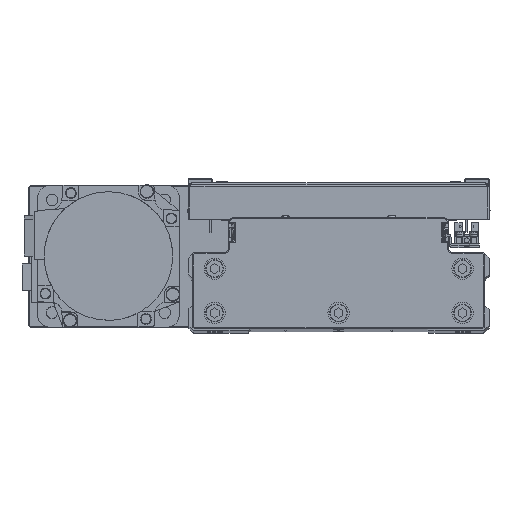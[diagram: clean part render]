
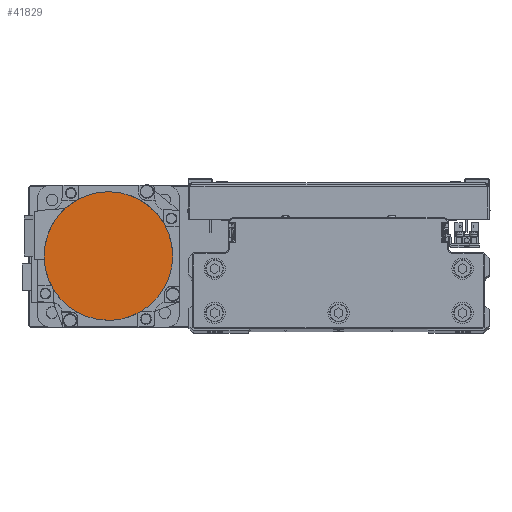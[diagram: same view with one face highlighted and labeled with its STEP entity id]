
A CAD part, top view. The second image highlights one B-rep face of the part: STEP entity #41829.
In plain terms, the highlighted planar face has unit normal (0, 0, 1) as drawn and (0, 0, -1) by its records, which use the part's own axes.
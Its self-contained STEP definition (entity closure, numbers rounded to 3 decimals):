
#99 = CARTESIAN_POINT ( 'NONE',  ( -28.862, -22.143, -122.2 ) ) ;
#969 = ORIENTED_EDGE ( 'NONE', *, *, #31364, .F. ) ;
#1072 = AXIS2_PLACEMENT_3D ( 'NONE', #32959, #2104, #15814 ) ;
#2104 = DIRECTION ( 'NONE',  ( 0., 0., 1. ) ) ;
#3100 = CARTESIAN_POINT ( 'NONE',  ( -16.086, 32.628, -122.2 ) ) ;
#3466 = CARTESIAN_POINT ( 'NONE',  ( -34.446, -11.696, -122.2 ) ) ;
#3679 = CARTESIAN_POINT ( 'NONE',  ( 0., -36.3, -122.2 ) ) ;
#3837 = VERTEX_POINT ( 'NONE', #13676 ) ;
#3941 = CARTESIAN_POINT ( 'NONE',  ( 0., 0., -122.2 ) ) ;
#4525 = AXIS2_PLACEMENT_3D ( 'NONE', #3941, #17665, #31440 ) ;
#5683 = VERTEX_POINT ( 'NONE', #7752 ) ;
#6460 = CARTESIAN_POINT ( 'NONE',  ( -4.752, 36.066, -122.2 ) ) ;
#6681 = CARTESIAN_POINT ( 'NONE',  ( -36.066, 4.752, -122.2 ) ) ;
#6805 = EDGE_LOOP ( 'NONE', ( #32971, #25907, #969, #23079 ) ) ;
#6816 = CARTESIAN_POINT ( 'NONE',  ( -36.3, -2.376, -122.2 ) ) ;
#7044 = CARTESIAN_POINT ( 'NONE',  ( -9.412, -35.139, -122.2 ) ) ;
#7332 = CARTESIAN_POINT ( 'NONE',  ( 0., -36.3, -122.2 ) ) ;
#7752 = CARTESIAN_POINT ( 'NONE',  ( 0., 36.3, -122.2 ) ) ;
#10042 = CARTESIAN_POINT ( 'NONE',  ( -32.628, 16.086, -122.2 ) ) ;
#10398 = CARTESIAN_POINT ( 'NONE',  ( -18.192, -31.502, -122.2 ) ) ;
#13432 = CARTESIAN_POINT ( 'NONE',  ( -27.348, 23.988, -122.2 ) ) ;
#13676 = CARTESIAN_POINT ( 'NONE',  ( 36.3, 0., -122.2 ) ) ;
#13798 = CARTESIAN_POINT ( 'NONE',  ( -27.348, -23.988, -122.2 ) ) ;
#14436 = CARTESIAN_POINT ( 'NONE',  ( 0., 0., -122.2 ) ) ;
#15434 = CIRCLE ( 'NONE', #40631, 36.3 ) ;
#15814 = DIRECTION ( 'NONE',  ( -1., 0., 0. ) ) ;
#16822 = CARTESIAN_POINT ( 'NONE',  ( -18.192, 31.502, -122.2 ) ) ;
#16911 = CARTESIAN_POINT ( 'NONE',  ( -36.3, 0., -122.2 ) ) ;
#17186 = CARTESIAN_POINT ( 'NONE',  ( -32.628, -16.086, -122.2 ) ) ;
#17665 = DIRECTION ( 'NONE',  ( 0., 0., 1. ) ) ;
#19906 = B_SPLINE_CURVE_WITH_KNOTS ( 'NONE', 3,
 ( #37685, #6816, #20559, #34319, #3466, #17186, #30947, #99, #13798, #27550, #41299, #10398, #24156, #37905, #7044, #20788, #34528, #3679 ),
 .UNSPECIFIED., .F., .F.,
 ( 4, 2, 2, 2, 2, 2, 2, 2, 4 ),
 ( 0., 0.125, 0.25, 0.375, 0.5, 0.625, 0.75, 0.875, 1. ),
 .UNSPECIFIED. ) ;
#20197 = CARTESIAN_POINT ( 'NONE',  ( -9.412, 35.139, -122.2 ) ) ;
#20421 = CARTESIAN_POINT ( 'NONE',  ( -36.3, 2.376, -122.2 ) ) ;
#20473 = CIRCLE ( 'NONE', #1072, 36.3 ) ;
#20559 = CARTESIAN_POINT ( 'NONE',  ( -36.066, -4.752, -122.2 ) ) ;
#20788 = CARTESIAN_POINT ( 'NONE',  ( -4.752, -36.066, -122.2 ) ) ;
#21053 = FACE_OUTER_BOUND ( 'NONE', #6805, .T. ) ;
#23079 = ORIENTED_EDGE ( 'NONE', *, *, #37482, .F. ) ;
#23587 = CARTESIAN_POINT ( 'NONE',  ( 0., 36.3, -122.2 ) ) ;
#23802 = CARTESIAN_POINT ( 'NONE',  ( -34.446, 11.696, -122.2 ) ) ;
#24156 = CARTESIAN_POINT ( 'NONE',  ( -16.086, -32.628, -122.2 ) ) ;
#25278 = VERTEX_POINT ( 'NONE', #16911 ) ;
#25907 = ORIENTED_EDGE ( 'NONE', *, *, #42092, .F. ) ;
#27186 = CARTESIAN_POINT ( 'NONE',  ( -28.862, 22.143, -122.2 ) ) ;
#27550 = CARTESIAN_POINT ( 'NONE',  ( -23.988, -27.348, -122.2 ) ) ;
#28186 = DIRECTION ( 'NONE',  ( 0., 0., 1. ) ) ;
#30580 = CARTESIAN_POINT ( 'NONE',  ( -22.143, 28.862, -122.2 ) ) ;
#30947 = CARTESIAN_POINT ( 'NONE',  ( -31.502, -18.192, -122.2 ) ) ;
#31364 = EDGE_CURVE ( 'NONE', #5683, #25278, #33194, .T. ) ;
#31440 = DIRECTION ( 'NONE',  ( 1., 0., 0. ) ) ;
#32959 = CARTESIAN_POINT ( 'NONE',  ( 0., 0., -122.2 ) ) ;
#32971 = ORIENTED_EDGE ( 'NONE', *, *, #37225, .F. ) ;
#33194 = B_SPLINE_CURVE_WITH_KNOTS ( 'NONE', 3,
 ( #23587, #37321, #6460, #20197, #33950, #3100, #16822, #30580, #44298, #13432, #27186, #40928, #10042, #23802, #37540, #6681, #20421, #34167 ),
 .UNSPECIFIED., .F., .F.,
 ( 4, 2, 2, 2, 2, 2, 2, 2, 4 ),
 ( 0., 0.125, 0.25, 0.375, 0.5, 0.625, 0.75, 0.875, 1. ),
 .UNSPECIFIED. ) ;
#33950 = CARTESIAN_POINT ( 'NONE',  ( -11.696, 34.446, -122.2 ) ) ;
#34167 = CARTESIAN_POINT ( 'NONE',  ( -36.3, 0., -122.2 ) ) ;
#34200 = VERTEX_POINT ( 'NONE', #7332 ) ;
#34319 = CARTESIAN_POINT ( 'NONE',  ( -35.139, -9.412, -122.2 ) ) ;
#34528 = CARTESIAN_POINT ( 'NONE',  ( -2.376, -36.3, -122.2 ) ) ;
#34794 = PLANE ( 'NONE',  #4525 ) ;
#37225 = EDGE_CURVE ( 'NONE', #34200, #3837, #20473, .T. ) ;
#37321 = CARTESIAN_POINT ( 'NONE',  ( -2.376, 36.3, -122.2 ) ) ;
#37482 = EDGE_CURVE ( 'NONE', #3837, #5683, #15434, .T. ) ;
#37540 = CARTESIAN_POINT ( 'NONE',  ( -35.139, 9.412, -122.2 ) ) ;
#37685 = CARTESIAN_POINT ( 'NONE',  ( -36.3, 0., -122.2 ) ) ;
#37905 = CARTESIAN_POINT ( 'NONE',  ( -11.696, -34.446, -122.2 ) ) ;
#40631 = AXIS2_PLACEMENT_3D ( 'NONE', #14436, #28186, #41926 ) ;
#40928 = CARTESIAN_POINT ( 'NONE',  ( -31.502, 18.192, -122.2 ) ) ;
#41299 = CARTESIAN_POINT ( 'NONE',  ( -22.143, -28.862, -122.2 ) ) ;
#41829 = ADVANCED_FACE ( 'NONE', ( #21053 ), #34794, .F. ) ;
#41926 = DIRECTION ( 'NONE',  ( -1., 0., 0. ) ) ;
#42092 = EDGE_CURVE ( 'NONE', #25278, #34200, #19906, .T. ) ;
#44298 = CARTESIAN_POINT ( 'NONE',  ( -23.988, 27.348, -122.2 ) ) ;
